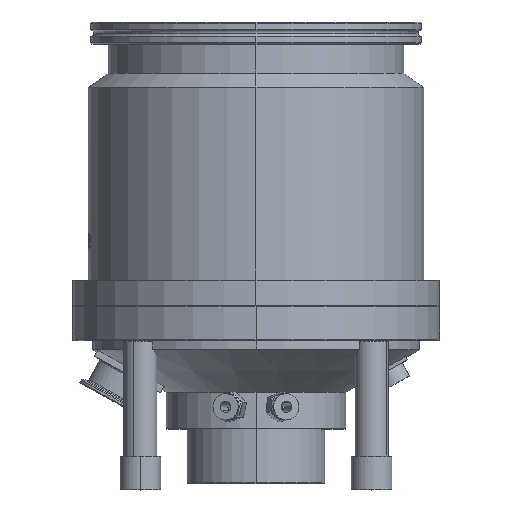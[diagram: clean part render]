
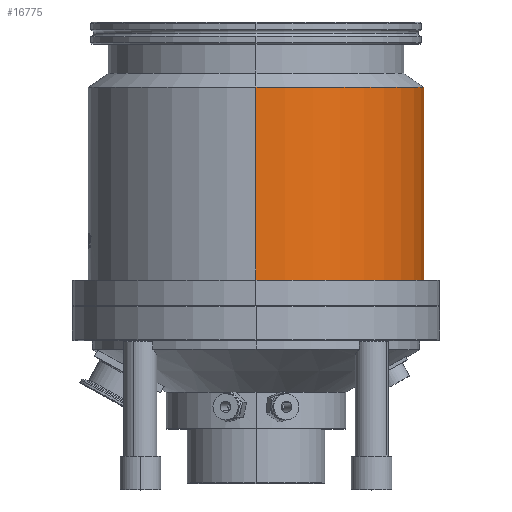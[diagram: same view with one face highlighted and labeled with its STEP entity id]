
A CAD part, top view. The second image highlights one B-rep face of the part: STEP entity #16775.
In plain terms, the highlighted cylindrical face has radius 121.5 mm (diameter 243 mm), a partial arc.
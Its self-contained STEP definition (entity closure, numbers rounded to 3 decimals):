
#739 = CIRCLE ( 'NONE', #32133, 121.5 ) ;
#829 = LINE ( 'NONE', #21530, #907 ) ;
#907 = VECTOR ( 'NONE', #20800, 1000. ) ;
#4040 = DIRECTION ( 'NONE',  ( 0., -1., 0. ) ) ;
#4051 = CARTESIAN_POINT ( 'NONE',  ( 0., 0., 0. ) ) ;
#4666 = AXIS2_PLACEMENT_3D ( 'NONE', #4051, #4040, #5268 ) ;
#4813 = VERTEX_POINT ( 'NONE', #15238 ) ;
#5268 = DIRECTION ( 'NONE',  ( 0., 0., -1. ) ) ;
#8841 = CARTESIAN_POINT ( 'NONE',  ( 0., 5.867, 121.5 ) ) ;
#8917 = CIRCLE ( 'NONE', #30450, 121.5 ) ;
#9677 = LINE ( 'NONE', #18984, #9805 ) ;
#9805 = VECTOR ( 'NONE', #18685, 1000. ) ;
#12699 = EDGE_LOOP ( 'NONE', ( #23129, #21663, #21321, #20649 ) ) ;
#13967 = CARTESIAN_POINT ( 'NONE',  ( 0., -133.983, -121.5 ) ) ;
#15238 = CARTESIAN_POINT ( 'NONE',  ( 0., -133.983, 121.5 ) ) ;
#16775 = ADVANCED_FACE ( 'NONE', ( #41080 ), #40150, .T. ) ;
#18685 = DIRECTION ( 'NONE',  ( 0., -1., 0. ) ) ;
#18872 = DIRECTION ( 'NONE',  ( 0., 0., -1. ) ) ;
#18881 = DIRECTION ( 'NONE',  ( 0., -1., 0. ) ) ;
#18928 = CARTESIAN_POINT ( 'NONE',  ( 0., 5.867, 0. ) ) ;
#18984 = CARTESIAN_POINT ( 'NONE',  ( 0., 0., 121.5 ) ) ;
#20649 = ORIENTED_EDGE ( 'NONE', *, *, #40160, .F. ) ;
#20800 = DIRECTION ( 'NONE',  ( 0., -1., 0. ) ) ;
#21218 = DIRECTION ( 'NONE',  ( 0., 0., -1. ) ) ;
#21254 = DIRECTION ( 'NONE',  ( 0., 1., 0. ) ) ;
#21321 = ORIENTED_EDGE ( 'NONE', *, *, #40154, .T. ) ;
#21379 = CARTESIAN_POINT ( 'NONE',  ( 0., -133.983, 0. ) ) ;
#21530 = CARTESIAN_POINT ( 'NONE',  ( 0., 0., -121.5 ) ) ;
#21663 = ORIENTED_EDGE ( 'NONE', *, *, #42154, .T. ) ;
#23129 = ORIENTED_EDGE ( 'NONE', *, *, #42096, .T. ) ;
#25654 = CARTESIAN_POINT ( 'NONE',  ( 0., 5.867, -121.5 ) ) ;
#27259 = VERTEX_POINT ( 'NONE', #25654 ) ;
#30450 = AXIS2_PLACEMENT_3D ( 'NONE', #18928, #18881, #18872 ) ;
#32133 = AXIS2_PLACEMENT_3D ( 'NONE', #21379, #21254, #21218 ) ;
#35850 = VERTEX_POINT ( 'NONE', #8841 ) ;
#40150 = CYLINDRICAL_SURFACE ( 'NONE', #4666, 121.5 ) ;
#40154 = EDGE_CURVE ( 'NONE', #4813, #41305, #739, .T. ) ;
#40160 = EDGE_CURVE ( 'NONE', #27259, #41305, #829, .T. ) ;
#41080 = FACE_OUTER_BOUND ( 'NONE', #12699, .T. ) ;
#41305 = VERTEX_POINT ( 'NONE', #13967 ) ;
#42096 = EDGE_CURVE ( 'NONE', #27259, #35850, #8917, .T. ) ;
#42154 = EDGE_CURVE ( 'NONE', #35850, #4813, #9677, .T. ) ;
